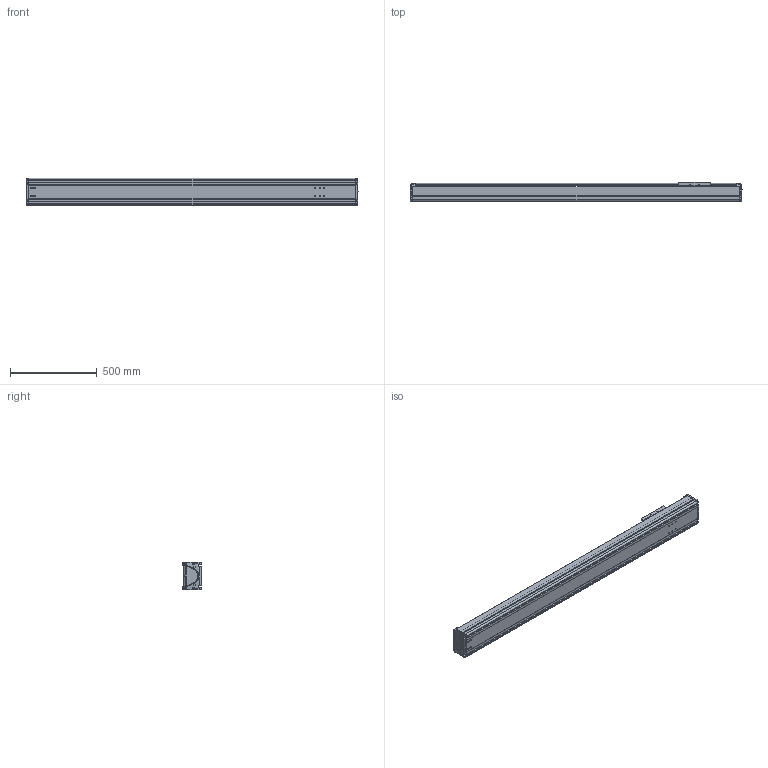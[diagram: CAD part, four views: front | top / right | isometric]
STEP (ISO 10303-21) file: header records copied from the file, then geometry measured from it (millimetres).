
FILE_DESCRIPTION((''),'2;1');
FILE_NAME('BE50G-ST-M_B-F0_IGS_PRT','2017-06-18T',(' '),(''),'PRO/ENGINEER BY PARAMETRIC TECHNOLOGY CORPORATION, 2015030','PRO/ENGINEER BY PARAMETRIC TECHNOLOGY CORPORATION, 2015030','');
FILE_SCHEMA(('CONFIG_CONTROL_DESIGN'));
Length unit declared in the file: millimetre
Products named in the file (1): BE50G-ST-M_B-F0_IGS_PRT
Bounding box: 1914.98 x 110 x 160 mm (x, y, z)
Volume: 7855443 mm3; surface area: 2858066.7 mm2
Topology: 3 solids, 112 shells, 1742 faces, 4670 edges, 3021 vertices
Faces by surface type: cylinder 814, plane 611, bspline 102, cone 88, torus 87, sphere 40
Entity records: 60545 total; most frequent: CARTESIAN_POINT 17528, ORIENTED_EDGE 8854, DIRECTION 8748, EDGE_CURVE 4642, AXIS2_PLACEMENT_3D 3298, VERTEX_POINT 3013, VECTOR 2152, LINE 2152
